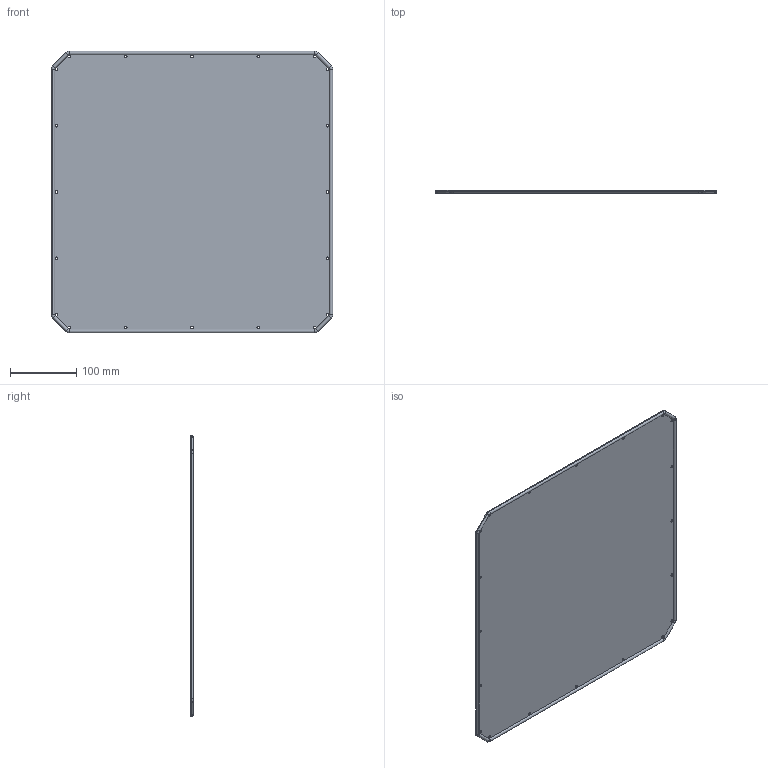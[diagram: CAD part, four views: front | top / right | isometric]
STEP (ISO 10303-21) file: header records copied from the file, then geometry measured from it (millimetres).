
FILE_DESCRIPTION (( 'STEP AP214' ), '1' );
FILE_NAME ('PK 60.60 GP.STEP', '2023-12-20T07:16:51', ( '' ), ( '' ), 'SwSTEP 2.0', 'SolidWorks 2022', '' );
FILE_SCHEMA (( 'AUTOMOTIVE_DESIGN' ));
Length unit declared in the file: millimetre
Products named in the file (3): PK 60.40 GP 00.002 Уплотнение полиуретановое_PK 60.60 GP ППУ Внешний контур; PK 60.60 GP; PK 60.40 GP 00.001 Панель кабельного ввода глухая_PK 60.60 GPS 00.001 Панель кабельного ввода глухая
Assembly tree (2 placements, depth 2):
  PK 60.60 GP
    PK 60.40 GP 00.001 Панель кабельного ввода глухая_PK 60.60 GPS 00.001 Панель кабельного ввода глухая
    PK 60.40 GP 00.002 Уплотнение полиуретановое_PK 60.60 GP ППУ Внешний контур
Bounding box: 424 x 4 x 424 mm (x, y, z)
Volume: 283439.1 mm3; surface area: 380391.6 mm2
Topology: 2 solids, 2 shells, 68 faces, 195 edges, 130 vertices
Faces by surface type: cylinder 49, plane 11, torus 8
Entity records: 2487 total; most frequent: DIRECTION 455, CARTESIAN_POINT 398, ORIENTED_EDGE 390, EDGE_CURVE 195, AXIS2_PLACEMENT_3D 187, VERTEX_POINT 130, CIRCLE 114, EDGE_LOOP 109
